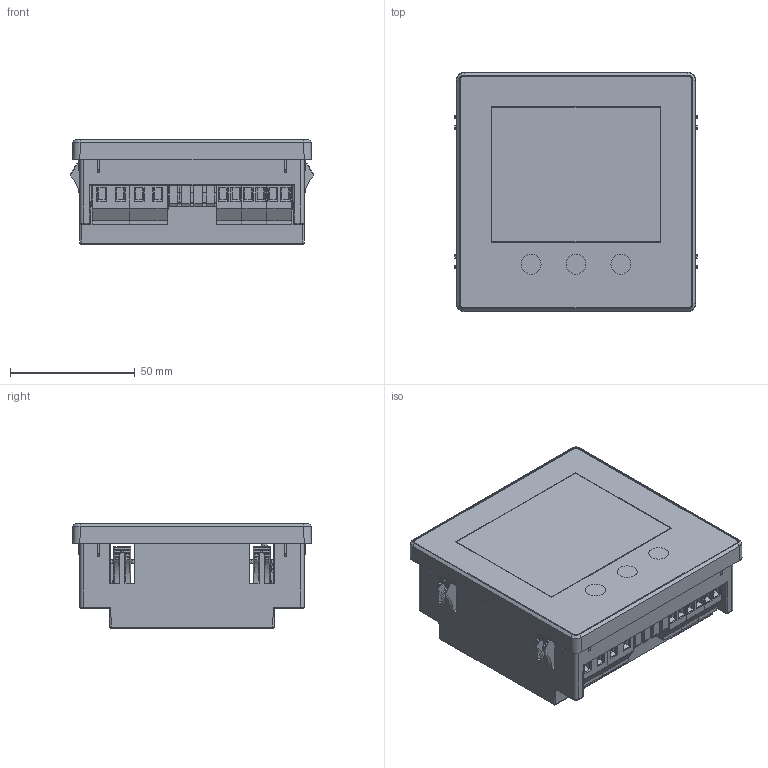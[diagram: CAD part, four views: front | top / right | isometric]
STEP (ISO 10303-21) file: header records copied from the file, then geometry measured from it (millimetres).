
FILE_DESCRIPTION (( 'STEP AP214' ), '1' );
FILE_NAME ('BQ918前衬模塑需要加厚0.3 CVM-C4.STEP', '2021-09-10T02:34:10', ( '' ), ( '' ), 'SwSTEP 2.0', 'SolidWorks 2009', '' );
FILE_SCHEMA (( 'AUTOMOTIVE_DESIGN' ));
Length unit declared in the file: millimetre
Products named in the file (10): 醱啣11; ш揖羲壽_45-7.1; mkds_3-2; Hha4AED0016; 翋啣; mkds_3-3; BQ918前衬模塑需要加厚0.3 CVM-C4; 芵隴啣 9SY褲; gmkds_3-2; ヶ傍 饜E92_CVM-C4
Assembly tree (20 placements, depth 2):
  BQ918前衬模塑需要加厚0.3 CVM-C4
    mkds_3-2  x8
    ш揖羲壽_45-7.1  x3
    gmkds_3-2  x2
    mkds_3-3  x2
    Hha4AED0016
    醱啣11
    翋啣
    ヶ傍 饜E92_CVM-C4
    芵隴啣 9SY褲
Bounding box: 97.35 x 96 x 42 mm (x, y, z)
Volume: 86174 mm3; surface area: 113082.5 mm2
Topology: 20 solids, 20 shells, 2492 faces, 6590 edges, 4332 vertices
Faces by surface type: plane 1782, cylinder 668, bspline 22, cone 20
Entity records: 44099 total; most frequent: CARTESIAN_POINT 7731, ORIENTED_EDGE 6636, DIRECTION 6208, EDGE_CURVE 3318, VECTOR 2610, LINE 2610, VERTEX_POINT 2166, AXIS2_PLACEMENT_3D 1799
